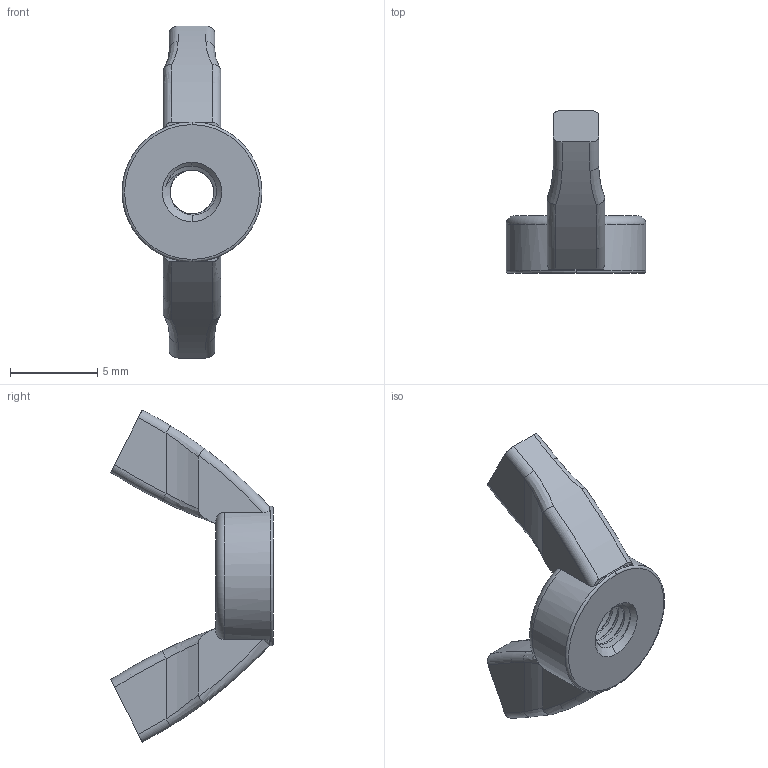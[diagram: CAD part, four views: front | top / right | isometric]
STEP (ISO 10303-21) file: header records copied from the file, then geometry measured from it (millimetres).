
FILE_DESCRIPTION (( 'STEP AP203' ), '1' );
FILE_NAME ('TANC-304-M3.STEP', '2026-08-24T08:23:24', ( '' ), ( '' ), 'SwSTEP 2.0', 'SolidWorks 2020', '' );
FILE_SCHEMA (( 'CONFIG_CONTROL_DESIGN' ));
Length unit declared in the file: millimetre
Products named in the file (1): TANC-304-M3
Bounding box: 8 x 9.3 x 19 mm (x, y, z)
Volume: 300.2 mm3; surface area: 395 mm2
Topology: 1 solids, 1 shells, 68 faces, 184 edges, 118 vertices
Faces by surface type: cylinder 21, torus 16, plane 16, bspline 11, cone 4
Entity records: 4482 total; most frequent: CARTESIAN_POINT 2861, ORIENTED_EDGE 368, DIRECTION 274, EDGE_CURVE 184, VERTEX_POINT 118, AXIS2_PLACEMENT_3D 114, EDGE_LOOP 70, B_SPLINE_CURVE_WITH_KNOTS 69
